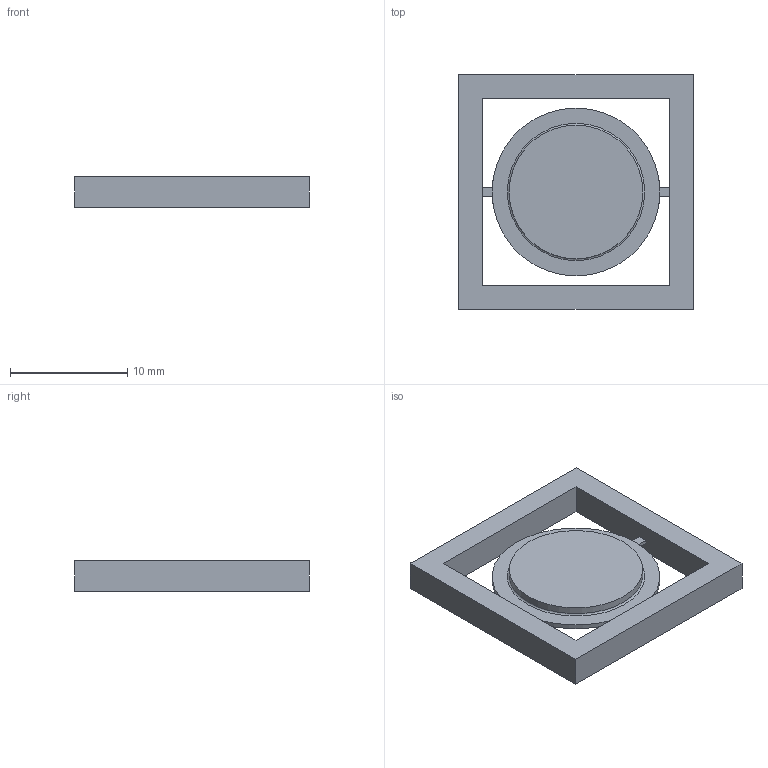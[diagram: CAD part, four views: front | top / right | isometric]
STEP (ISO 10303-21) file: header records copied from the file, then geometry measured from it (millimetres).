
FILE_DESCRIPTION(('FreeCAD Model'),'2;1');
FILE_NAME('Open CASCADE Shape Model','2026-09-23T11:17:55',('FreeCAD'),( 'FreeCAD'),'Open CASCADE STEP processor 7.8','FreeCAD','Unknown');
FILE_SCHEMA(('AUTOMOTIVE_DESIGN { 1 0 10303 214 1 1 1 1 }'));
Length unit declared in the file: millimetre
Products named in the file (1): Open CASCADE STEP translator 7.8 4
Bounding box: 20 x 20 x 2.6 mm (x, y, z)
Volume: 504.7 mm3; surface area: 1036.4 mm2
Topology: 1 solids, 1 shells, 28 faces, 65 edges, 43 vertices
Faces by surface type: plane 23, cylinder 4, torus 1
Full cylindrical faces by diameter (mm): 2.4 x1, 6.4 x1, 11.4 x1, 14.3 x1
Entity records: 813 total; most frequent: CARTESIAN_POINT 139, DIRECTION 137, ORIENTED_EDGE 130, EDGE_CURVE 65, LINE 47, VECTOR 47, AXIS2_PLACEMENT_3D 45, VERTEX_POINT 43
